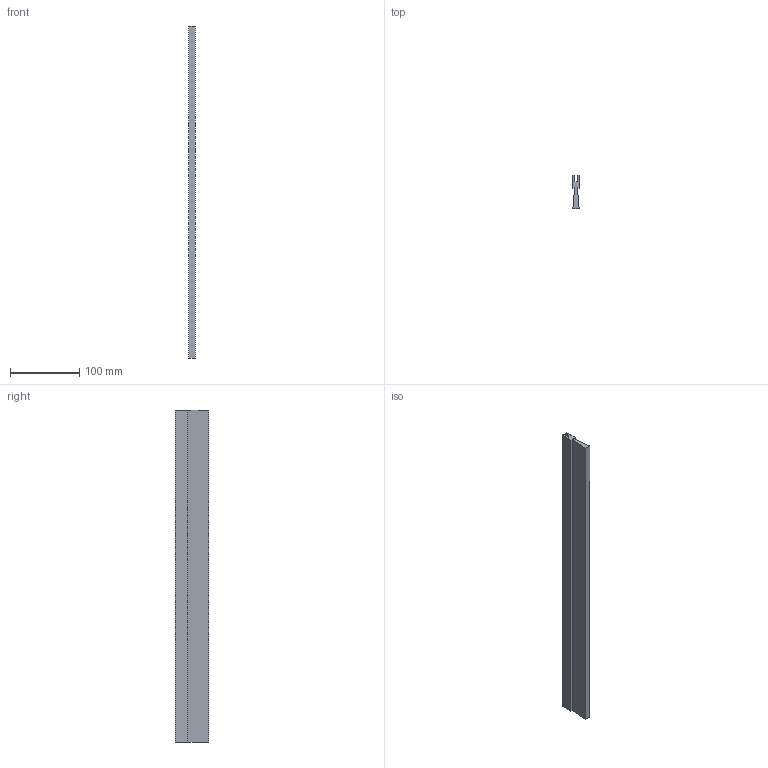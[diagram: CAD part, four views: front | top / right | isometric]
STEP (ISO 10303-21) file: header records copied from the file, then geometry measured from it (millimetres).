
FILE_DESCRIPTION (( 'STEP AP214' ), '1' );
FILE_NAME ('Ùåòêà ïëàñòèêîâàÿ ïëîñêàÿ (478 ìì).STEP', '2022-12-27T14:11:51', ( '' ), ( '' ), 'SwSTEP 2.0', 'SolidWorks 2018', '' );
FILE_SCHEMA (( 'AUTOMOTIVE_DESIGN' ));
Length unit declared in the file: millimetre
Products named in the file (1): Ùåòêà ïëàñòèêîâàÿ ïëîñêàÿ (478 ìì)
Bounding box: 9 x 48 x 478 mm (x, y, z)
Volume: 150570 mm3; surface area: 67379.1 mm2
Topology: 1 solids, 1 shells, 14 faces, 36 edges, 24 vertices
Faces by surface type: plane 14
Entity records: 454 total; most frequent: CARTESIAN_POINT 75, ORIENTED_EDGE 72, DIRECTION 66, LINE 36, VECTOR 36, EDGE_CURVE 36, VERTEX_POINT 24, AXIS2_PLACEMENT_3D 15
